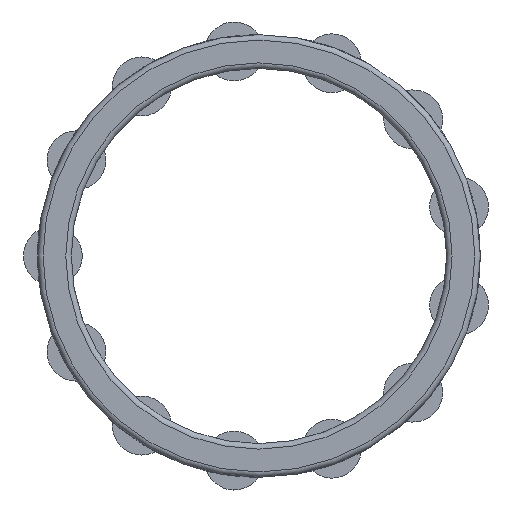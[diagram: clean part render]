
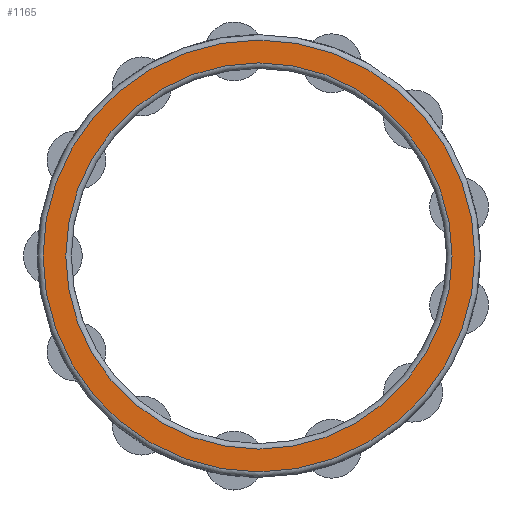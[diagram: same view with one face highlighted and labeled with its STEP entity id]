
A CAD part, left-side view. The second image highlights one B-rep face of the part: STEP entity #1165.
In plain terms, the highlighted planar face has unit normal (-1, 0, 0).
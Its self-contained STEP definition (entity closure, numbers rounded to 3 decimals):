
#16=PLANE('',#1284);
#218=FACE_BOUND('',#343,.T.);
#239=FACE_OUTER_BOUND('',#342,.T.);
#342=EDGE_LOOP('',(#889));
#343=EDGE_LOOP('',(#890));
#471=CIRCLE('',#1283,4.92);
#472=CIRCLE('',#1285,5.5);
#609=VERTEX_POINT('',#2014);
#610=VERTEX_POINT('',#2017);
#721=EDGE_CURVE('',#609,#609,#471,.T.);
#722=EDGE_CURVE('',#610,#610,#472,.T.);
#889=ORIENTED_EDGE('',*,*,#722,.F.);
#890=ORIENTED_EDGE('',*,*,#721,.F.);
#1165=ADVANCED_FACE('',(#239,#218),#16,.T.);
#1283=AXIS2_PLACEMENT_3D('',#2015,#1543,#1544);
#1284=AXIS2_PLACEMENT_3D('',#2016,#1545,#1546);
#1285=AXIS2_PLACEMENT_3D('',#2018,#1547,#1548);
#1543=DIRECTION('center_axis',(-1.,0.,0.));
#1544=DIRECTION('ref_axis',(0.,-1.,0.));
#1545=DIRECTION('center_axis',(-1.,0.,0.));
#1546=DIRECTION('ref_axis',(0.,0.,1.));
#1547=DIRECTION('center_axis',(1.,0.,0.));
#1548=DIRECTION('ref_axis',(0.,-1.,0.));
#2014=CARTESIAN_POINT('',(-7.,4.92,0.));
#2015=CARTESIAN_POINT('Origin',(-7.,0.,0.));
#2016=CARTESIAN_POINT('Origin',(-7.,5.64,0.));
#2017=CARTESIAN_POINT('',(-7.,5.5,0.));
#2018=CARTESIAN_POINT('Origin',(-7.,0.,0.));
